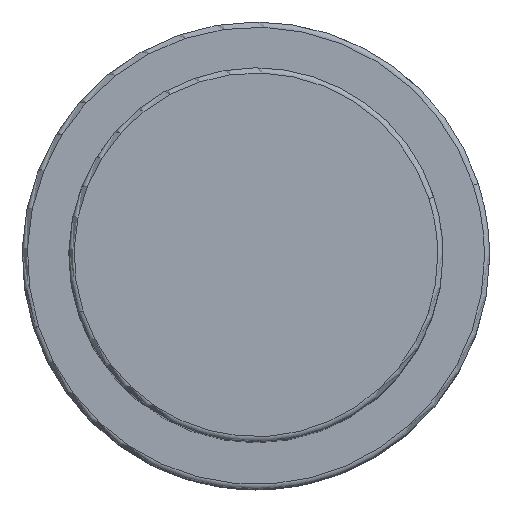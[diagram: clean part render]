
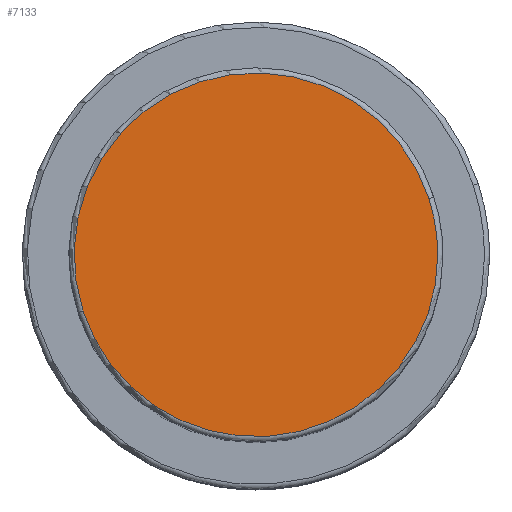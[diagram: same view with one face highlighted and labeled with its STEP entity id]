
A CAD part, top view. The second image highlights one B-rep face of the part: STEP entity #7133.
In plain terms, the highlighted planar face has unit normal (0, 0, 1).
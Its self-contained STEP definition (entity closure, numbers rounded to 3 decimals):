
#7099=CARTESIAN_POINT('',(17.5,0.0,78.0));
#7100=VERTEX_POINT('',#7099);
#7101=CARTESIAN_POINT('',(16.643,5.408,78.0));
#7102=VERTEX_POINT('',#7101);
#7103=CARTESIAN_POINT('',(0.0,0.0,78.0));
#7104=DIRECTION('',(0.0,0.0,1.0));
#7105=DIRECTION('',(1.0,0.0,0.0));
#7106=AXIS2_PLACEMENT_3D('',#7103,#7104,#7105);
#7107=CIRCLE('',#7106,17.5);
#7108=EDGE_CURVE('no 3623',#7100,#7102,#7107,.T.);
#7109=ORIENTED_EDGE('',*,*,#7108,.T.);
#7110=CARTESIAN_POINT('',(-16.643,-5.408,78.0));
#7111=VERTEX_POINT('',#7110);
#7112=CARTESIAN_POINT('',(0.0,0.0,78.0));
#7113=DIRECTION('',(0.0,0.0,1.0));
#7114=DIRECTION('',(1.0,0.0,0.0));
#7115=AXIS2_PLACEMENT_3D('',#7112,#7113,#7114);
#7116=CIRCLE('',#7115,17.5);
#7117=EDGE_CURVE('no 3629',#7102,#7111,#7116,.T.);
#7118=ORIENTED_EDGE('',*,*,#7117,.T.);
#7119=CARTESIAN_POINT('',(0.0,0.0,78.0));
#7120=DIRECTION('',(0.0,0.0,1.0));
#7121=DIRECTION('',(1.0,0.0,0.0));
#7122=AXIS2_PLACEMENT_3D('',#7119,#7120,#7121);
#7123=CIRCLE('',#7122,17.5);
#7124=EDGE_CURVE('no 3633',#7111,#7100,#7123,.T.);
#7125=ORIENTED_EDGE('',*,*,#7124,.T.);
#7126=EDGE_LOOP('',(#7109,#7118,#7125));
#7127=FACE_OUTER_BOUND('',#7126,.T.);
#7128=CARTESIAN_POINT('',(0.0,0.0,78.0));
#7129=DIRECTION('',(0.0,0.0,1.0));
#7130=DIRECTION('',(1.0,0.0,0.0));
#7131=AXIS2_PLACEMENT_3D('',#7128,#7129,#7130);
#7132=PLANE('',#7131);
#7133=ADVANCED_FACE('no 3614',(#7127),#7132,.T.);
